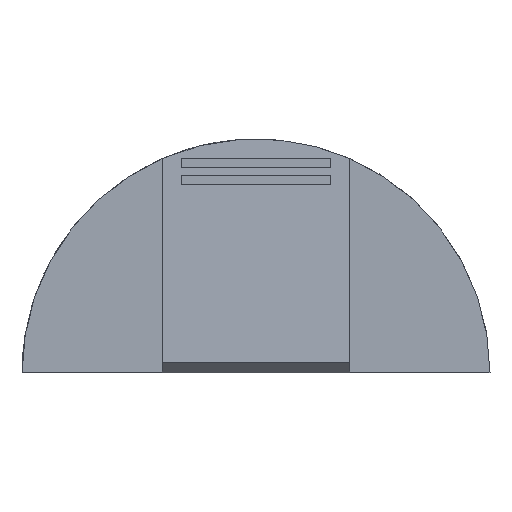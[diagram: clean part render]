
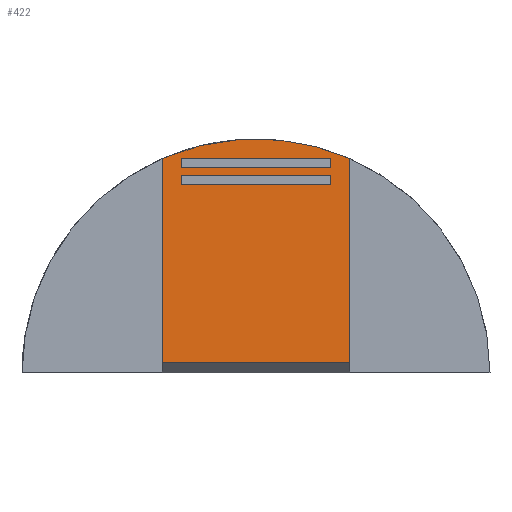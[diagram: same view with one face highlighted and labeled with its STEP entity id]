
A CAD part, top view. The second image highlights one B-rep face of the part: STEP entity #422.
In plain terms, the highlighted planar face has unit normal (0, 0.048, 0.999).
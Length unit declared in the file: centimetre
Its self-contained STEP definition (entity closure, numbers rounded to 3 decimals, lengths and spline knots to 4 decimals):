
#107=VECTOR('',#486,1.);
#108=VECTOR('',#488,1.);
#111=VECTOR('',#492,1.);
#112=VECTOR('',#495,1.);
#113=VECTOR('',#496,1.);
#114=VECTOR('',#497,1.);
#115=VECTOR('',#498,1.);
#116=VECTOR('',#499,1.);
#117=VECTOR('',#500,1.);
#118=VECTOR('',#501,1.);
#119=VECTOR('',#502,1.);
#141=LINE('',#561,#107);
#142=LINE('',#563,#108);
#145=LINE('',#569,#111);
#146=LINE('',#572,#112);
#147=LINE('',#575,#113);
#148=LINE('',#577,#114);
#149=LINE('',#579,#115);
#150=LINE('',#580,#116);
#151=LINE('',#583,#117);
#152=LINE('',#585,#118);
#153=LINE('',#587,#119);
#173=ELLIPSE('',#450,7.9467,7.9375);
#179=PLANE('',#449);
#200=VERTEX_POINT('',#558);
#201=VERTEX_POINT('',#560);
#202=VERTEX_POINT('',#564);
#204=VERTEX_POINT('',#570);
#205=VERTEX_POINT('',#573);
#206=VERTEX_POINT('',#574);
#207=VERTEX_POINT('',#576);
#208=VERTEX_POINT('',#578);
#209=VERTEX_POINT('',#581);
#210=VERTEX_POINT('',#582);
#211=VERTEX_POINT('',#584);
#212=VERTEX_POINT('',#586);
#237=EDGE_CURVE('',#201,#200,#141,.T.);
#238=EDGE_CURVE('',#200,#202,#142,.T.);
#241=EDGE_CURVE('',#204,#201,#145,.T.);
#242=EDGE_CURVE('',#202,#204,#173,.T.);
#243=EDGE_CURVE('',#205,#206,#146,.T.);
#244=EDGE_CURVE('',#207,#205,#147,.T.);
#245=EDGE_CURVE('',#208,#207,#148,.T.);
#246=EDGE_CURVE('',#206,#208,#149,.T.);
#247=EDGE_CURVE('',#209,#210,#150,.T.);
#248=EDGE_CURVE('',#211,#209,#151,.T.);
#249=EDGE_CURVE('',#212,#211,#152,.T.);
#250=EDGE_CURVE('',#210,#212,#153,.T.);
#291=ORIENTED_EDGE('',*,*,#238,.F.);
#292=ORIENTED_EDGE('',*,*,#237,.F.);
#293=ORIENTED_EDGE('',*,*,#241,.F.);
#294=ORIENTED_EDGE('',*,*,#242,.F.);
#295=ORIENTED_EDGE('',*,*,#243,.F.);
#296=ORIENTED_EDGE('',*,*,#244,.F.);
#297=ORIENTED_EDGE('',*,*,#245,.F.);
#298=ORIENTED_EDGE('',*,*,#246,.F.);
#299=ORIENTED_EDGE('',*,*,#247,.F.);
#300=ORIENTED_EDGE('',*,*,#248,.F.);
#301=ORIENTED_EDGE('',*,*,#249,.F.);
#302=ORIENTED_EDGE('',*,*,#250,.F.);
#370=EDGE_LOOP('',(#291,#292,#293,#294));
#371=EDGE_LOOP('',(#295,#296,#297,#298));
#372=EDGE_LOOP('',(#299,#300,#301,#302));
#398=FACE_BOUND('',#370,.T.);
#399=FACE_BOUND('',#371,.T.);
#400=FACE_BOUND('',#372,.T.);
#422=ADVANCED_FACE('',(#398,#399,#400),#179,.F.);
#449=AXIS2_PLACEMENT_3D('',#568,#491,$);
#450=AXIS2_PLACEMENT_3D('',#571,#493,#494);
#486=DIRECTION('',(-1.,0.,0.));
#488=DIRECTION('',(0.,0.999,-0.048));
#491=DIRECTION('',(0.,-0.048,-0.999));
#492=DIRECTION('',(0.,-0.999,0.048));
#493=DIRECTION('',(0.,-0.048,-0.999));
#494=DIRECTION('',(0.,-7.938,0.383));
#495=DIRECTION('',(0.,-0.999,0.048));
#496=DIRECTION('',(-1.,0.,0.));
#497=DIRECTION('',(0.,0.999,-0.048));
#498=DIRECTION('',(1.,0.,0.));
#499=DIRECTION('',(0.,-0.999,0.048));
#500=DIRECTION('',(-1.,0.,0.));
#501=DIRECTION('',(0.,0.999,-0.048));
#502=DIRECTION('',(1.,0.,0.));
#558=CARTESIAN_POINT('',(-3.175,0.3531,0.3658));
#560=CARTESIAN_POINT('',(3.175,0.3531,0.3658));
#561=CARTESIAN_POINT('',(-4.9735,0.3531,0.3658));
#563=CARTESIAN_POINT('',(-3.175,3.8963,0.1949));
#564=CARTESIAN_POINT('',(-3.175,7.2748,0.032));
#568=CARTESIAN_POINT('',(-9.9471,4.1453,0.1829));
#569=CARTESIAN_POINT('',(3.175,3.8963,0.1949));
#570=CARTESIAN_POINT('',(3.175,7.2748,0.032));
#571=CARTESIAN_POINT('',(0.,0.,0.3828));
#572=CARTESIAN_POINT('',(-2.54,5.3342,0.1255));
#573=CARTESIAN_POINT('',(-2.54,6.7031,0.0595));
#574=CARTESIAN_POINT('',(-2.54,6.3856,0.0748));
#575=CARTESIAN_POINT('',(-5.6085,6.7031,0.0595));
#576=CARTESIAN_POINT('',(2.54,6.7031,0.0595));
#577=CARTESIAN_POINT('',(2.54,5.3342,0.1255));
#578=CARTESIAN_POINT('',(2.54,6.3856,0.0748));
#579=CARTESIAN_POINT('',(-4.3385,6.3856,0.0748));
#580=CARTESIAN_POINT('',(-2.54,5.6193,0.1118));
#581=CARTESIAN_POINT('',(-2.54,7.2746,0.032));
#582=CARTESIAN_POINT('',(-2.54,6.9571,0.0473));
#583=CARTESIAN_POINT('',(-5.6085,7.2746,0.032));
#584=CARTESIAN_POINT('',(2.54,7.2746,0.032));
#585=CARTESIAN_POINT('',(2.54,5.6193,0.1118));
#586=CARTESIAN_POINT('',(2.54,6.9571,0.0473));
#587=CARTESIAN_POINT('',(-4.3385,6.9571,0.0473));
